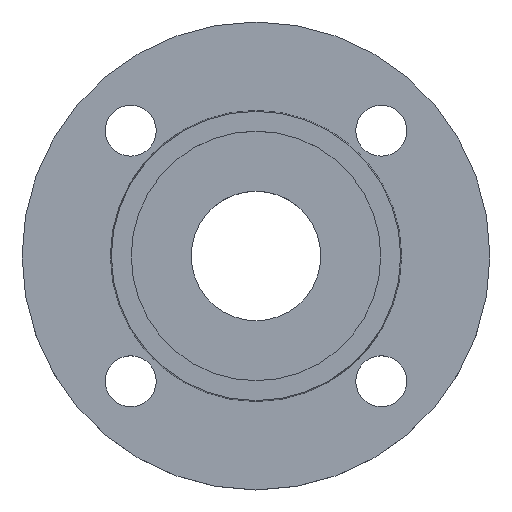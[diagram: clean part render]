
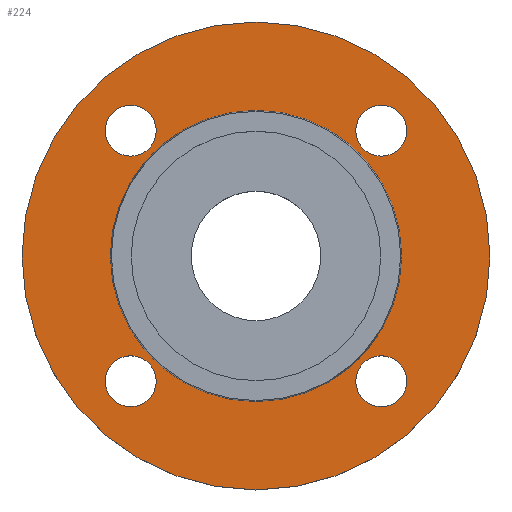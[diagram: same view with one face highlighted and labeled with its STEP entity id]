
A CAD part, top view. The second image highlights one B-rep face of the part: STEP entity #224.
In plain terms, the highlighted planar face has unit normal (0, 0, 1).
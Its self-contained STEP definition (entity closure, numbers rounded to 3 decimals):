
#1 = AXIS2_PLACEMENT_3D ( 'NONE', #785, #786, #789 ) ;
#11 = EDGE_CURVE ( 'NONE', #578, #510, #637, .T. ) ;
#18 = DIRECTION ( 'NONE',  ( 0., 0., -1. ) ) ;
#20 = CIRCLE ( 'NONE', #361, 9. ) ;
#21 = AXIS2_PLACEMENT_3D ( 'NONE', #41, #40, #38 ) ;
#24 = DIRECTION ( 'NONE',  ( -1., 0., 0. ) ) ;
#38 = DIRECTION ( 'NONE',  ( -1., 0., 0. ) ) ;
#40 = DIRECTION ( 'NONE',  ( 0., 0., -1. ) ) ;
#41 = CARTESIAN_POINT ( 'NONE',  ( 0., 0., -2. ) ) ;
#94 = EDGE_CURVE ( 'NONE', #510, #578, #20, .T. ) ;
#97 = CARTESIAN_POINT ( 'NONE',  ( -53.194, 44.194, -2. ) ) ;
#106 = CARTESIAN_POINT ( 'NONE',  ( 51.353, 0., -2. ) ) ;
#107 = CARTESIAN_POINT ( 'NONE',  ( 35.194, 44.194, -2. ) ) ;
#111 = CARTESIAN_POINT ( 'NONE',  ( -35.194, 44.194, -2. ) ) ;
#119 = CARTESIAN_POINT ( 'NONE',  ( 82.5, 0., -2. ) ) ;
#127 = EDGE_CURVE ( 'NONE', #344, #458, #325, .T. ) ;
#135 = CARTESIAN_POINT ( 'NONE',  ( 53.194, 44.194, -2. ) ) ;
#136 = DIRECTION ( 'NONE',  ( 1., 0., 0. ) ) ;
#137 = DIRECTION ( 'NONE',  ( 0., 0., -1. ) ) ;
#138 = CARTESIAN_POINT ( 'NONE',  ( 44.194, -44.194, -2. ) ) ;
#144 = CIRCLE ( 'NONE', #294, 9. ) ;
#154 = CARTESIAN_POINT ( 'NONE',  ( 35.194, -44.194, -2. ) ) ;
#179 = AXIS2_PLACEMENT_3D ( 'NONE', #772, #773, #774 ) ;
#190 = CARTESIAN_POINT ( 'NONE',  ( 53.194, -44.194, -2. ) ) ;
#191 = AXIS2_PLACEMENT_3D ( 'NONE', #776, #777, #778 ) ;
#192 = CIRCLE ( 'NONE', #191, 82.5 ) ;
#199 = CARTESIAN_POINT ( 'NONE',  ( -51.353, 0., -2. ) ) ;
#203 = EDGE_CURVE ( 'NONE', #347, #587, #334, .T. ) ;
#216 = AXIS2_PLACEMENT_3D ( 'NONE', #439, #18, #24 ) ;
#221 = CARTESIAN_POINT ( 'NONE',  ( -82.5, 0., -2. ) ) ;
#224 = ADVANCED_FACE ( 'NONE', ( #762, #763, #765, #766, #768, #769 ), #770, .T. ) ;
#226 = CARTESIAN_POINT ( 'NONE',  ( -35.194, -44.194, -2. ) ) ;
#234 = EDGE_CURVE ( 'NONE', #540, #332, #192, .T. ) ;
#240 = EDGE_CURVE ( 'NONE', #557, #357, #503, .T. ) ;
#245 = AXIS2_PLACEMENT_3D ( 'NONE', #537, #542, #589 ) ;
#256 = CIRCLE ( 'NONE', #307, 9. ) ;
#260 = CIRCLE ( 'NONE', #552, 9. ) ;
#261 = CARTESIAN_POINT ( 'NONE',  ( -44.194, -44.194, -2. ) ) ;
#263 = DIRECTION ( 'NONE',  ( 0., 0., -1. ) ) ;
#264 = CIRCLE ( 'NONE', #21, 82.5 ) ;
#265 = DIRECTION ( 'NONE',  ( 1., 0., 0. ) ) ;
#266 = CARTESIAN_POINT ( 'NONE',  ( -44.194, 44.194, -2. ) ) ;
#267 = DIRECTION ( 'NONE',  ( 0., 0., -1. ) ) ;
#268 = CIRCLE ( 'NONE', #216, 51.353 ) ;
#272 = DIRECTION ( 'NONE',  ( 1., 0., 0. ) ) ;
#279 = EDGE_CURVE ( 'NONE', #587, #347, #268, .T. ) ;
#293 = EDGE_CURVE ( 'NONE', #357, #557, #144, .T. ) ;
#294 = AXIS2_PLACEMENT_3D ( 'NONE', #261, #263, #265 ) ;
#298 = EDGE_CURVE ( 'NONE', #562, #640, #260, .T. ) ;
#307 = AXIS2_PLACEMENT_3D ( 'NONE', #138, #137, #136 ) ;
#317 = AXIS2_PLACEMENT_3D ( 'NONE', #744, #746, #747 ) ;
#319 = EDGE_CURVE ( 'NONE', #640, #562, #571, .T. ) ;
#325 = CIRCLE ( 'NONE', #435, 9. ) ;
#332 = VERTEX_POINT ( 'NONE', #221 ) ;
#334 = CIRCLE ( 'NONE', #317, 51.353 ) ;
#344 = VERTEX_POINT ( 'NONE', #190 ) ;
#347 = VERTEX_POINT ( 'NONE', #199 ) ;
#357 = VERTEX_POINT ( 'NONE', #226 ) ;
#361 = AXIS2_PLACEMENT_3D ( 'NONE', #689, #690, #691 ) ;
#419 = ORIENTED_EDGE ( 'NONE', *, *, #127, .T. ) ;
#421 = ORIENTED_EDGE ( 'NONE', *, *, #507, .T. ) ;
#422 = ORIENTED_EDGE ( 'NONE', *, *, #293, .T. ) ;
#423 = ORIENTED_EDGE ( 'NONE', *, *, #240, .T. ) ;
#425 = ORIENTED_EDGE ( 'NONE', *, *, #298, .T. ) ;
#426 = ORIENTED_EDGE ( 'NONE', *, *, #319, .T. ) ;
#427 = ORIENTED_EDGE ( 'NONE', *, *, #94, .T. ) ;
#429 = ORIENTED_EDGE ( 'NONE', *, *, #11, .T. ) ;
#430 = ORIENTED_EDGE ( 'NONE', *, *, #203, .T. ) ;
#431 = ORIENTED_EDGE ( 'NONE', *, *, #279, .T. ) ;
#432 = CARTESIAN_POINT ( 'NONE',  ( -53.194, -44.194, -2. ) ) ;
#433 = ORIENTED_EDGE ( 'NONE', *, *, #234, .F. ) ;
#434 = ORIENTED_EDGE ( 'NONE', *, *, #775, .F. ) ;
#435 = AXIS2_PLACEMENT_3D ( 'NONE', #711, #712, #714 ) ;
#439 = CARTESIAN_POINT ( 'NONE',  ( 0., 0., -2. ) ) ;
#458 = VERTEX_POINT ( 'NONE', #154 ) ;
#503 = CIRCLE ( 'NONE', #1, 9. ) ;
#507 = EDGE_CURVE ( 'NONE', #458, #344, #256, .T. ) ;
#510 = VERTEX_POINT ( 'NONE', #135 ) ;
#537 = CARTESIAN_POINT ( 'NONE',  ( -44.194, 44.194, -2. ) ) ;
#540 = VERTEX_POINT ( 'NONE', #119 ) ;
#542 = DIRECTION ( 'NONE',  ( 0., 0., -1. ) ) ;
#552 = AXIS2_PLACEMENT_3D ( 'NONE', #266, #267, #272 ) ;
#557 = VERTEX_POINT ( 'NONE', #432 ) ;
#562 = VERTEX_POINT ( 'NONE', #111 ) ;
#571 = CIRCLE ( 'NONE', #245, 9. ) ;
#578 = VERTEX_POINT ( 'NONE', #107 ) ;
#586 = EDGE_LOOP ( 'NONE', ( #433, #434 ) ) ;
#587 = VERTEX_POINT ( 'NONE', #106 ) ;
#589 = DIRECTION ( 'NONE',  ( 1., 0., 0. ) ) ;
#605 = EDGE_LOOP ( 'NONE', ( #422, #423 ) ) ;
#606 = EDGE_LOOP ( 'NONE', ( #430, #431 ) ) ;
#607 = EDGE_LOOP ( 'NONE', ( #427, #429 ) ) ;
#612 = EDGE_LOOP ( 'NONE', ( #425, #426 ) ) ;
#620 = AXIS2_PLACEMENT_3D ( 'NONE', #651, #652, #653 ) ;
#637 = CIRCLE ( 'NONE', #620, 9. ) ;
#640 = VERTEX_POINT ( 'NONE', #97 ) ;
#646 = EDGE_LOOP ( 'NONE', ( #419, #421 ) ) ;
#651 = CARTESIAN_POINT ( 'NONE',  ( 44.194, 44.194, -2. ) ) ;
#652 = DIRECTION ( 'NONE',  ( 0., 0., -1. ) ) ;
#653 = DIRECTION ( 'NONE',  ( 1., 0., 0. ) ) ;
#689 = CARTESIAN_POINT ( 'NONE',  ( 44.194, 44.194, -2. ) ) ;
#690 = DIRECTION ( 'NONE',  ( 0., 0., -1. ) ) ;
#691 = DIRECTION ( 'NONE',  ( 1., 0., 0. ) ) ;
#711 = CARTESIAN_POINT ( 'NONE',  ( 44.194, -44.194, -2. ) ) ;
#712 = DIRECTION ( 'NONE',  ( 0., 0., -1. ) ) ;
#714 = DIRECTION ( 'NONE',  ( 1., 0., 0. ) ) ;
#744 = CARTESIAN_POINT ( 'NONE',  ( 0., 0., -2. ) ) ;
#746 = DIRECTION ( 'NONE',  ( 0., 0., -1. ) ) ;
#747 = DIRECTION ( 'NONE',  ( -1., 0., 0. ) ) ;
#762 = FACE_BOUND ( 'NONE', #646, .T. ) ;
#763 = FACE_BOUND ( 'NONE', #605, .T. ) ;
#765 = FACE_BOUND ( 'NONE', #612, .T. ) ;
#766 = FACE_BOUND ( 'NONE', #607, .T. ) ;
#768 = FACE_BOUND ( 'NONE', #606, .T. ) ;
#769 = FACE_OUTER_BOUND ( 'NONE', #586, .T. ) ;
#770 = PLANE ( 'NONE',  #179 ) ;
#772 = CARTESIAN_POINT ( 'NONE',  ( 51.353, 0., -2. ) ) ;
#773 = DIRECTION ( 'NONE',  ( 0., 0., 1. ) ) ;
#774 = DIRECTION ( 'NONE',  ( 1., 0., 0. ) ) ;
#775 = EDGE_CURVE ( 'NONE', #332, #540, #264, .T. ) ;
#776 = CARTESIAN_POINT ( 'NONE',  ( 0., 0., -2. ) ) ;
#777 = DIRECTION ( 'NONE',  ( 0., 0., -1. ) ) ;
#778 = DIRECTION ( 'NONE',  ( -1., 0., 0. ) ) ;
#785 = CARTESIAN_POINT ( 'NONE',  ( -44.194, -44.194, -2. ) ) ;
#786 = DIRECTION ( 'NONE',  ( 0., 0., -1. ) ) ;
#789 = DIRECTION ( 'NONE',  ( 1., 0., 0. ) ) ;
